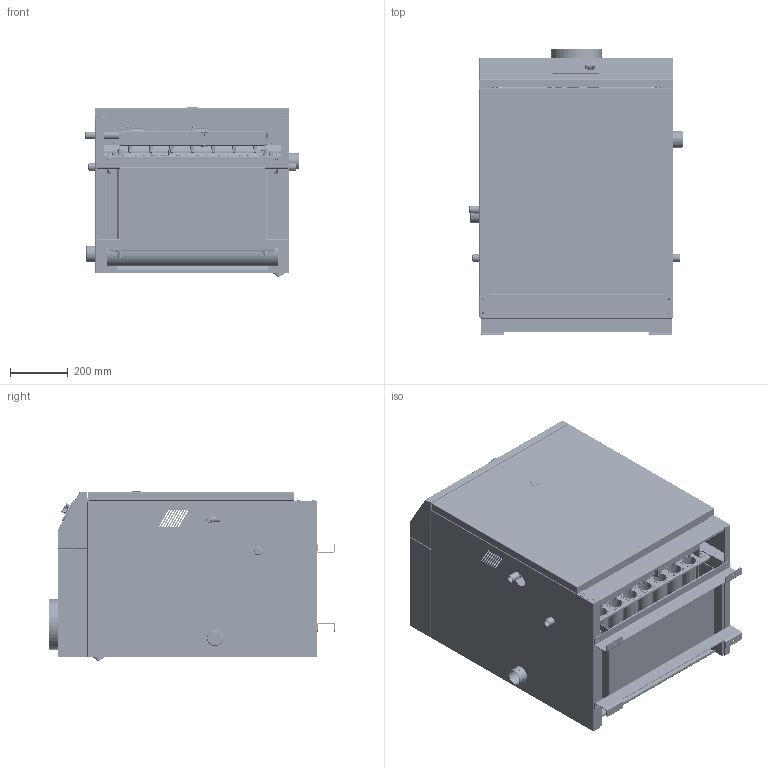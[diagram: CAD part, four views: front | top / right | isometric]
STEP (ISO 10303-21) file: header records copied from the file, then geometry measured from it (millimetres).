
FILE_DESCRIPTION(('STEP AP242'), '1');
FILE_NAME('ﾒﾈﾒﾀﾍ 2016', '', ('UNSPECIFIED'), ('UNSPECIFIED'), 'ASCON STEP Converter 1.6', 'ASCON Math Kernel', '');
FILE_SCHEMA(('AP242_MANAGED_MODEL_BASED_3D_ENGINEERING_MIM_LF { 1 0 10303 442 1 1 4 }'));
Length unit declared in the file: millimetre
Products named in the file (122): КЕВМ.3105.00.00.000-15; КЕВМ.3105.01.00.000-05; -05; КЕВМ.3103.01.01.002-05; КЕВМ.3103.01.02.001; КЕВМ.3103.01.02.003-05; КЕВМ.3103.01.02.004-02; КЕВМ.3103.01.02.007; -01; Заглушка Ду15; Клапан манометра 1_2'''' х 1_4''''; Колба защитная; Кран маевского; Заглушка Ду50; КЕВМ.3105.03.00.000; КЕВМ.3105.02.00.001-05; КЕВМ.3105.03.01.000; КЕВМ.3105.03.01.010; КЕВМ.3103.03.01.011; КЕВМ.3103.03.01.013; КЕВМ.3103.02.01.002; КЕВМ.3105.02.01.004; КЕВМ.3105.03.01.020; КЕВМ.3103.03.01.021; ШАЙБА под форсунки; КЕВМ.3103.02.00.005; КЕВМ.3103.02.00.002-05; КЕВМ.3105.03.02.000; КЕВМ.3105.03.02.001; КЕВМ.3103.03.02.003; КЕВМ.3105.02.01.004-02; -03; -25; КЕВМ.3105.00.00.003-05; КЕВМ.3105.00.00.002-05; КЕВМ.3105.00.00.004-05; Термостат аварийный IMIT; Колпачек термостата; Значек нет тчги 10х10; Значек закипание 10х10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
Assembly tree (243 placements, depth 5):
  КЕВМ.3105.00.00.000-15
    КЕВМ.3105.01.00.000-05
      -05
      -05
        -05
        КЕВМ.3103.01.01.002-05  x2
      -05
        -05
        (unnamed)
        КЕВМ.3103.01.02.001
        -05
        -05
        КЕВМ.3103.01.02.003-05
        КЕВМ.3103.01.02.004-02
        КЕВМ.3103.01.02.007
      -05
      -05
      (unnamed)
      -01
      Заглушка Ду15
      Клапан манометра 1_2'''' х 1_4''''
      Колба защитная
      Кран маевского
      Заглушка Ду50  x2
      (unnamed)  x2
      (unnamed)  x2
      (unnamed)  x4
      (unnamed)  x6
      (unnamed)  x2
      (unnamed)  x2
    КЕВМ.3105.03.00.000
      КЕВМ.3105.02.00.001-05
      КЕВМ.3105.03.01.000
        КЕВМ.3105.03.01.010
          КЕВМ.3103.03.01.011
          КЕВМ.3103.03.01.013
          КЕВМ.3103.02.01.002
          КЕВМ.3105.02.01.004
          (unnamed)
        КЕВМ.3105.03.01.020
          КЕВМ.3103.03.01.021
          КЕВМ.3103.03.01.013
          КЕВМ.3103.02.01.002
          (unnamed)
          КЕВМ.3105.02.01.004
        (unnamed)  x7
          (unnamed)
          ШАЙБА под форсунки
        (unnamed)  x2
          (unnamed)
          (unnamed)
          (unnamed)
          (unnamed)
      (unnamed)
      КЕВМ.3103.02.00.005
      КЕВМ.3103.02.00.002-05
      (unnamed)  x2
      (unnamed)  x2
      (unnamed)  x2
      (unnamed)  x2
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Bounding box: 737.5 x 986 x 583.81 mm (x, y, z)
Volume: 105140892 mm3; surface area: 14178773.9 mm2
Topology: 273 solids, 273 shells, 9500 faces, 24563 edges, 16008 vertices
Faces by surface type: plane 5274, cylinder 3403, bspline 344, cone 206, torus 130, extrusion 72, sphere 71
Full cylindrical faces by diameter (mm): 0.7 x924, 1 x1, 1.5 x8, 2 x9, 2.5 x13, 2.7 x4, 2.9 x21, 3 x38, 3.2 x48, 3.242 x1, 3.3 x8, 3.5 x42, 4 x60, 4.2 x10, 4.4 x1, 4.5 x12, 4.7 x1, 4.917 x2, 5 x18, 5.6 x17, 5.8 x1, 6 x11, 6.6 x4, 6.647 x8, 6.917 x6, 6.95 x2, 7 x11, 7.8 x2, 8 x36, 8.4 x2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
Entity records: 190870 total; most frequent: CARTESIAN_POINT 63556, DIRECTION 21841, ORIENTED_EDGE 21502, EDGE_CURVE 10751, AXIS2_PLACEMENT_3D 7363, VERTEX_POINT 7243, VECTOR 7115, LINE 7043
